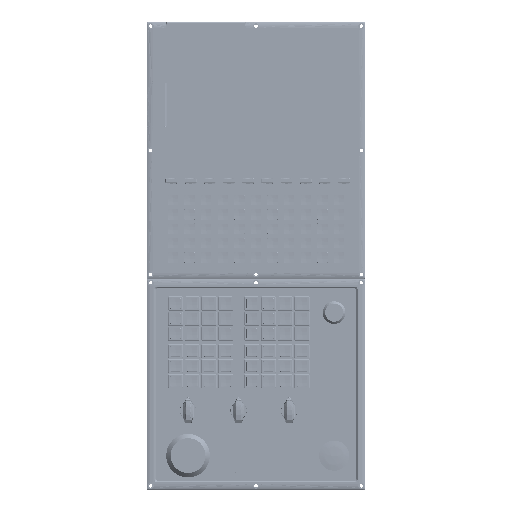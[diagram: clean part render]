
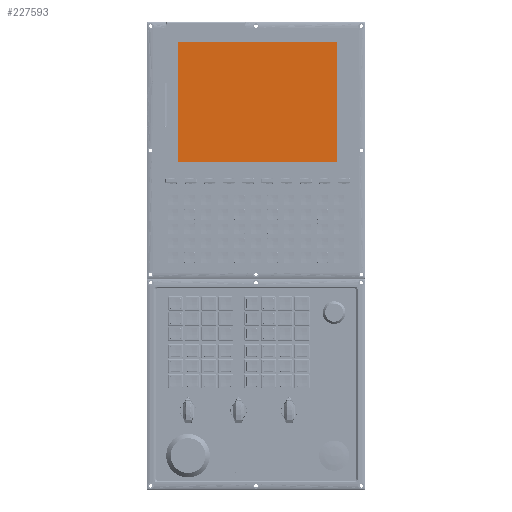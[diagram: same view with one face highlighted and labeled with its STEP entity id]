
A CAD part, top view. The second image highlights one B-rep face of the part: STEP entity #227593.
In plain terms, the highlighted planar face has unit normal (0, 0, 1).
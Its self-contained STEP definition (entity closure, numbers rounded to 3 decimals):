
#2216 = EDGE_CURVE ( 'NONE', #304906, #166491, #159180, .T. ) ;
#2461 = ORIENTED_EDGE ( 'NONE', *, *, #421956, .F. ) ;
#6390 = VECTOR ( 'NONE', #206547, 1000. ) ;
#26118 = DIRECTION ( 'NONE',  ( -1., 0., 0. ) ) ;
#31369 = VERTEX_POINT ( 'NONE', #464650 ) ;
#43880 = DIRECTION ( 'NONE',  ( 0., 0., 1. ) ) ;
#51053 = LINE ( 'NONE', #216168, #321132 ) ;
#88658 = CARTESIAN_POINT ( 'NONE',  ( -103.3, 143.5, 1.82 ) ) ;
#89523 = VECTOR ( 'NONE', #341866, 1000. ) ;
#97907 = CARTESIAN_POINT ( 'NONE',  ( 107.9, -14.9, 1.82 ) ) ;
#111314 = FACE_OUTER_BOUND ( 'NONE', #126145, .T. ) ;
#126145 = EDGE_LOOP ( 'NONE', ( #128948, #417215, #270549, #2461 ) ) ;
#128948 = ORIENTED_EDGE ( 'NONE', *, *, #443236, .F. ) ;
#130405 = AXIS2_PLACEMENT_3D ( 'NONE', #263823, #43880, #300956 ) ;
#159180 = LINE ( 'NONE', #392377, #440786 ) ;
#166491 = VERTEX_POINT ( 'NONE', #302792 ) ;
#190005 = PLANE ( 'NONE',  #130405 ) ;
#206547 = DIRECTION ( 'NONE',  ( 1., 0., 0. ) ) ;
#216168 = CARTESIAN_POINT ( 'NONE',  ( 107.9, 150.7, 1.82 ) ) ;
#227593 = ADVANCED_FACE ( 'NONE', ( #111314 ), #190005, .T. ) ;
#263823 = CARTESIAN_POINT ( 'NONE',  ( 115.1, 150.7, 1.82 ) ) ;
#269577 = CARTESIAN_POINT ( 'NONE',  ( -103.3, 150.7, 1.82 ) ) ;
#270549 = ORIENTED_EDGE ( 'NONE', *, *, #351016, .F. ) ;
#278939 = CARTESIAN_POINT ( 'NONE',  ( 115.1, 143.5, 1.82 ) ) ;
#300956 = DIRECTION ( 'NONE',  ( 1., 0., 0. ) ) ;
#302792 = CARTESIAN_POINT ( 'NONE',  ( -103.3, -14.9, 1.82 ) ) ;
#304906 = VERTEX_POINT ( 'NONE', #97907 ) ;
#321132 = VECTOR ( 'NONE', #437924, 1000. ) ;
#331073 = LINE ( 'NONE', #269577, #89523 ) ;
#341866 = DIRECTION ( 'NONE',  ( 0., 1., 0. ) ) ;
#351016 = EDGE_CURVE ( 'NONE', #31369, #304906, #51053, .T. ) ;
#392377 = CARTESIAN_POINT ( 'NONE',  ( 115.1, -14.9, 1.82 ) ) ;
#417215 = ORIENTED_EDGE ( 'NONE', *, *, #2216, .F. ) ;
#420191 = LINE ( 'NONE', #278939, #6390 ) ;
#421956 = EDGE_CURVE ( 'NONE', #434188, #31369, #420191, .T. ) ;
#434188 = VERTEX_POINT ( 'NONE', #88658 ) ;
#437924 = DIRECTION ( 'NONE',  ( 0., -1., 0. ) ) ;
#440786 = VECTOR ( 'NONE', #26118, 1000. ) ;
#443236 = EDGE_CURVE ( 'NONE', #166491, #434188, #331073, .T. ) ;
#464650 = CARTESIAN_POINT ( 'NONE',  ( 107.9, 143.5, 1.82 ) ) ;
